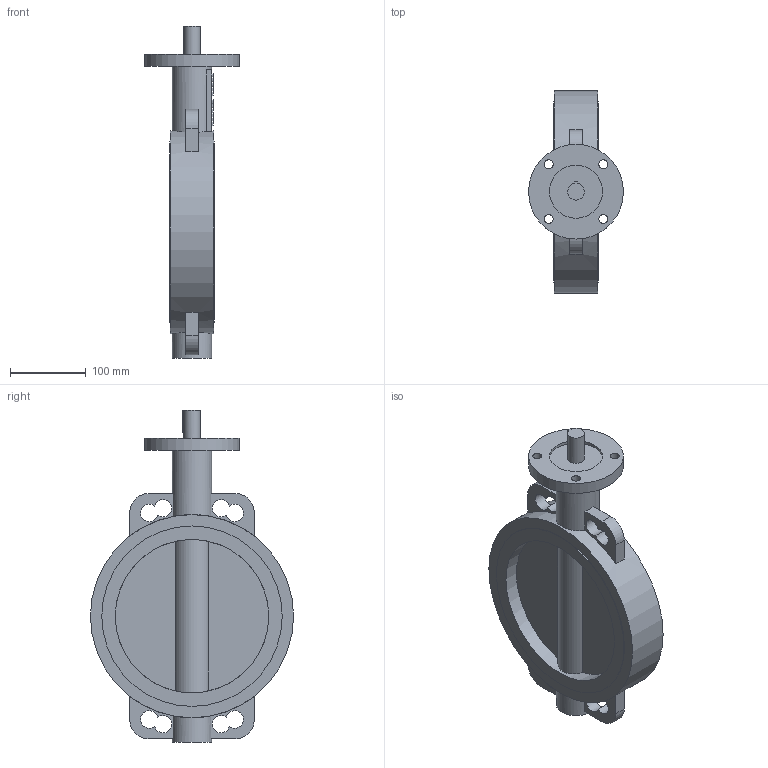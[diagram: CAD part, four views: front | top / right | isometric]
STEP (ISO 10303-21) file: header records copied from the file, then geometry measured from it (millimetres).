
FILE_DESCRIPTION(('STEP AP203'), '1');
FILE_NAME('Çàòâîð 017W.Z(ñòàëü) DN200 PN10_16 áåç èñï. ìåõ-ìà', '', ('UNSPECIFIED'), ('UNSPECIFIED'), 'ASCON STEP Converter 1.6', 'ASCON Math Kernel', '');
FILE_SCHEMA(('CONFIG_CONTROL_DESIGN'));
Length unit declared in the file: millimetre
Bounding box: 125 x 268 x 438 mm (x, y, z)
Volume: 2759372 mm3; surface area: 262180.3 mm2
Topology: 1 solids, 1 shells, 740 faces, 2132 edges, 1421 vertices
Faces by surface type: cylinder 555, plane 185
Full cylindrical faces by diameter (mm): 12 x4, 22.1 x1, 52 x2, 70 x1, 125 x1, 202.5 x2, 238 x2, 268 x1
Entity records: 31250 total; most frequent: CARTESIAN_POINT 4758, DIRECTION 4713, ORIENTED_EDGE 4236, EDGE_CURVE 2118, AXIS2_PLACEMENT_3D 1865, VERTEX_POINT 1421, CIRCLE 1124, LINE 983
